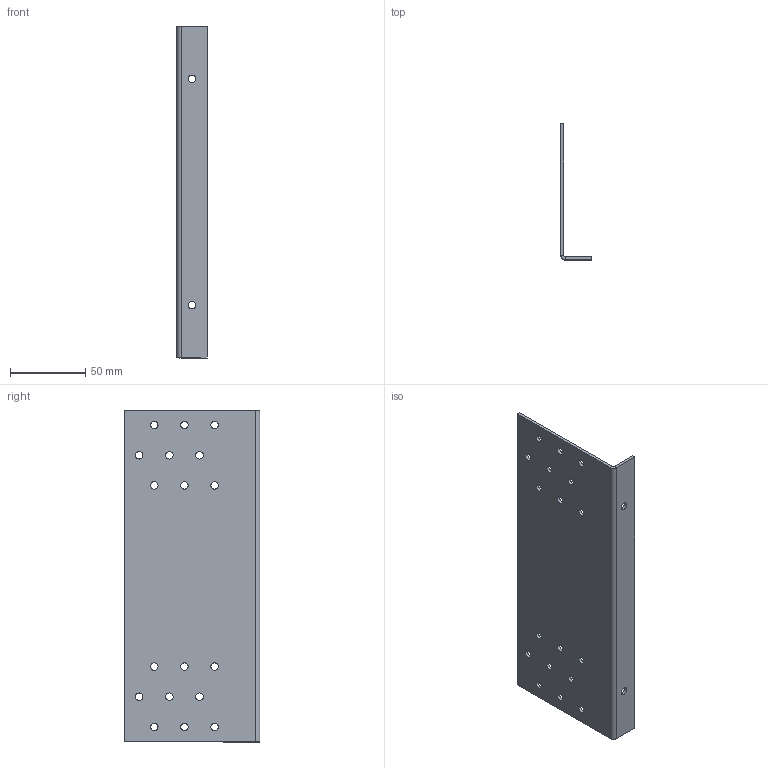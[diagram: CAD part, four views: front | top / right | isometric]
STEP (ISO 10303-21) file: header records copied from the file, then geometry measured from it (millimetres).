
FILE_DESCRIPTION (( 'STEP AP203' ), '1' );
FILE_NAME ('209.STEP', '2020-04-17T13:27:27', ( '' ), ( '' ), 'SwSTEP 2.0', 'SolidWorks 2013', '' );
FILE_SCHEMA (( 'CONFIG_CONTROL_DESIGN' ));
Length unit declared in the file: millimetre
Products named in the file (1): 209
Bounding box: 20 x 90 x 220 mm (x, y, z)
Volume: 46407.5 mm3; surface area: 48344.9 mm2
Topology: 1 solids, 1 shells, 54 faces, 148 edges, 96 vertices
Faces by surface type: cylinder 42, plane 12
Entity records: 1909 total; most frequent: DIRECTION 342, CARTESIAN_POINT 299, ORIENTED_EDGE 296, EDGE_CURVE 148, AXIS2_PLACEMENT_3D 139, VERTEX_POINT 96, EDGE_LOOP 94, CIRCLE 84
